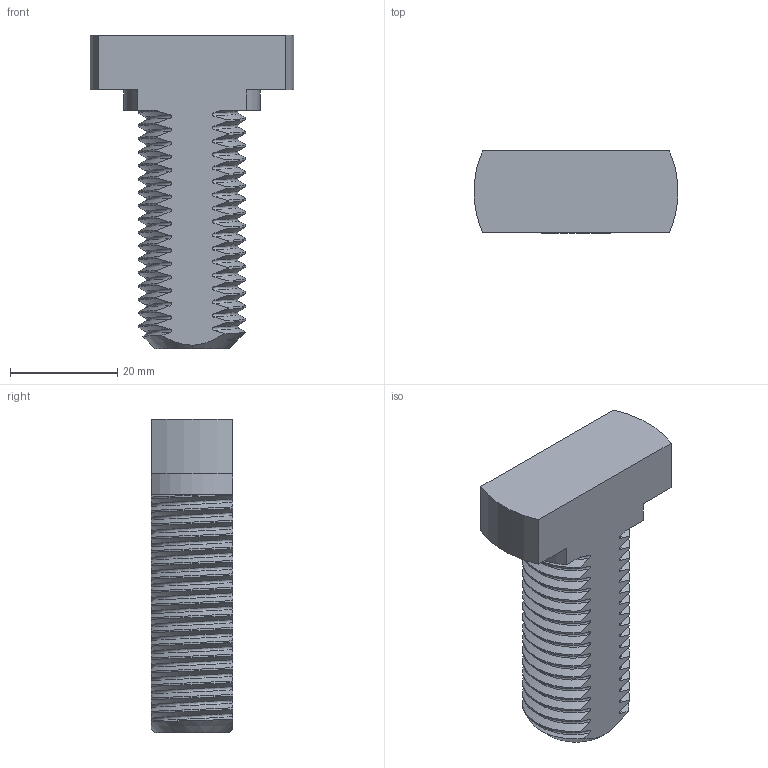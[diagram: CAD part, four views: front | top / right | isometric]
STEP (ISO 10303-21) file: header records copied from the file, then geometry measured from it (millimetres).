
FILE_DESCRIPTION(/* description */ ('STEP AP242 Edition 2','CAx-IF Rec.Pracs.---Representation and Presentation of Product Manufacturing Information (PMI)---4.0---2014-10-13','CAx-IF Rec.Pracs.---3D Tessellated Geometry---0.4---2014-09-14','2;1','CAx-IF Rec.Pracs.---User Defined Attributes---1.5---2016-08-15'),/* implementation_level */ '2;1');
FILE_NAME(/* name */ 'boundary screw - boundary screw',/* time_stamp */ '2026-06-03T10:27:03Z',/* author */ (''),/* organization */ (''),/* preprocessor_version */ 'ST-DEVELOPER v20',/* originating_system */ 'ONSHAPE BY PTC INC, 1.215',/* authorisation */ ' ');
FILE_SCHEMA (('AP242_MANAGED_MODEL_BASED_3D_ENGINEERING_MIM_LF { 1 0 10303 442 3 1 4 }'));
Products named in the file (1): boundary screw
Bounding box: 37.97 x 15.24 x 58.42 mm (x, y, z)
Volume: 17869.2 mm3; surface area: 5876.3 mm2
Topology: 1 solids, 1 shells, 154 faces, 456 edges, 304 vertices
Faces by surface type: bspline 105, cylinder 39, plane 8, cone 2
Entity records: 46289 total; most frequent: CARTESIAN_POINT 43399, ORIENTED_EDGE 912, EDGE_CURVE 456, VERTEX_POINT 304, B_SPLINE_CURVE_WITH_KNOTS 218, DIRECTION 213, EDGE_LOOP 154, FACE_BOUND 154
